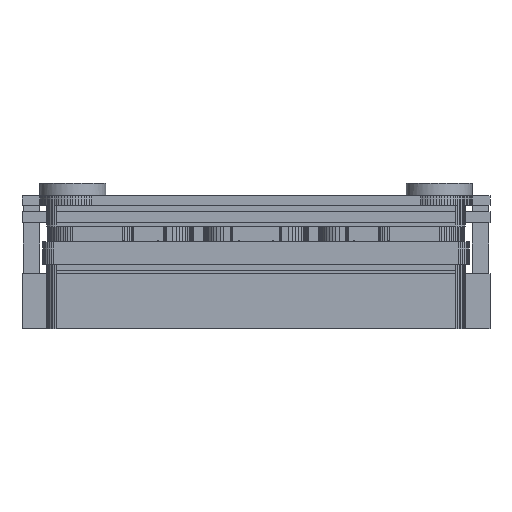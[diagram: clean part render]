
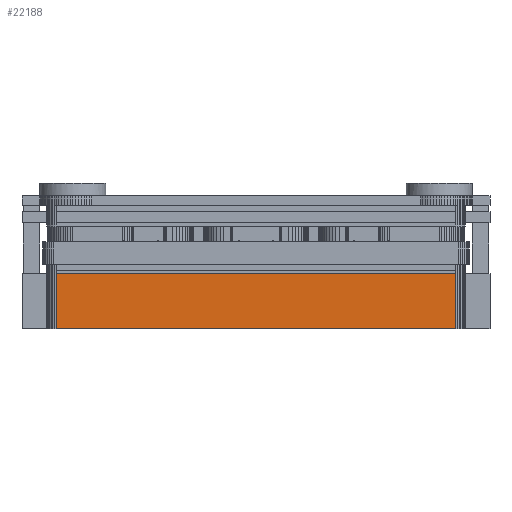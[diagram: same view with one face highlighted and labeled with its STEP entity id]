
A CAD part, left-side view. The second image highlights one B-rep face of the part: STEP entity #22188.
In plain terms, the highlighted planar face has unit normal (-1, 0, 0).
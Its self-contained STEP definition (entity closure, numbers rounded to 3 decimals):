
#254 = PLANE('',#255);
#255 = AXIS2_PLACEMENT_3D('',#256,#257,#258);
#256 = CARTESIAN_POINT('',(0.405,0.,-1.145));
#257 = DIRECTION('',(-0.,-0.,-1.));
#258 = DIRECTION('',(-1.,0.,0.));
#308 = PLANE('',#309);
#309 = AXIS2_PLACEMENT_3D('',#310,#311,#312);
#310 = CARTESIAN_POINT('',(0.405,0.,-3.145));
#311 = DIRECTION('',(-0.,-0.,-1.));
#312 = DIRECTION('',(-1.,0.,0.));
#641 = VERTEX_POINT('',#642);
#642 = CARTESIAN_POINT('',(-7.3,-7.25,-3.145));
#656 = PLANE('',#657);
#657 = AXIS2_PLACEMENT_3D('',#658,#659,#660);
#658 = CARTESIAN_POINT('',(-7.293,-7.318,-3.145));
#659 = DIRECTION('',(-0.995,-0.098,0.));
#660 = DIRECTION('',(-0.098,0.995,0.));
#668 = EDGE_CURVE('',#641,#669,#671,.T.);
#669 = VERTEX_POINT('',#670);
#670 = CARTESIAN_POINT('',(-7.3,7.25,-3.145));
#671 = SURFACE_CURVE('',#672,(#676,#683),.PCURVE_S1.);
#672 = LINE('',#673,#674);
#673 = CARTESIAN_POINT('',(-7.3,-7.25,-3.145));
#674 = VECTOR('',#675,1.);
#675 = DIRECTION('',(0.,1.,0.));
#676 = PCURVE('',#308,#677);
#677 = DEFINITIONAL_REPRESENTATION('',(#678),#682);
#678 = LINE('',#679,#680);
#679 = CARTESIAN_POINT('',(7.705,-7.25));
#680 = VECTOR('',#681,1.);
#681 = DIRECTION('',(0.,1.));
#682 = ( GEOMETRIC_REPRESENTATION_CONTEXT(2) 
PARAMETRIC_REPRESENTATION_CONTEXT() REPRESENTATION_CONTEXT('2D SPACE',''
  ) );
#683 = PCURVE('',#684,#689);
#684 = PLANE('',#685);
#685 = AXIS2_PLACEMENT_3D('',#686,#687,#688);
#686 = CARTESIAN_POINT('',(-7.3,-7.25,-3.145));
#687 = DIRECTION('',(-1.,0.,0.));
#688 = DIRECTION('',(0.,1.,0.));
#689 = DEFINITIONAL_REPRESENTATION('',(#690),#694);
#690 = LINE('',#691,#692);
#691 = CARTESIAN_POINT('',(0.,0.));
#692 = VECTOR('',#693,1.);
#693 = DIRECTION('',(1.,0.));
#694 = ( GEOMETRIC_REPRESENTATION_CONTEXT(2) 
PARAMETRIC_REPRESENTATION_CONTEXT() REPRESENTATION_CONTEXT('2D SPACE',''
  ) );
#712 = PLANE('',#713);
#713 = AXIS2_PLACEMENT_3D('',#714,#715,#716);
#714 = CARTESIAN_POINT('',(-7.3,7.25,-3.145));
#715 = DIRECTION('',(-0.995,0.098,0.));
#716 = DIRECTION('',(0.098,0.995,0.));
#11660 = VERTEX_POINT('',#11661);
#11661 = CARTESIAN_POINT('',(-7.3,-7.25,-1.145));
#11682 = EDGE_CURVE('',#11660,#11683,#11685,.T.);
#11683 = VERTEX_POINT('',#11684);
#11684 = CARTESIAN_POINT('',(-7.3,7.25,-1.145));
#11685 = SURFACE_CURVE('',#11686,(#11690,#11697),.PCURVE_S1.);
#11686 = LINE('',#11687,#11688);
#11687 = CARTESIAN_POINT('',(-7.3,-7.25,-1.145));
#11688 = VECTOR('',#11689,1.);
#11689 = DIRECTION('',(0.,1.,0.));
#11690 = PCURVE('',#254,#11691);
#11691 = DEFINITIONAL_REPRESENTATION('',(#11692),#11696);
#11692 = LINE('',#11693,#11694);
#11693 = CARTESIAN_POINT('',(7.705,-7.25));
#11694 = VECTOR('',#11695,1.);
#11695 = DIRECTION('',(0.,1.));
#11696 = ( GEOMETRIC_REPRESENTATION_CONTEXT(2) 
PARAMETRIC_REPRESENTATION_CONTEXT() REPRESENTATION_CONTEXT('2D SPACE',''
  ) );
#11697 = PCURVE('',#684,#11698);
#11698 = DEFINITIONAL_REPRESENTATION('',(#11699),#11703);
#11699 = LINE('',#11700,#11701);
#11700 = CARTESIAN_POINT('',(0.,-2.));
#11701 = VECTOR('',#11702,1.);
#11702 = DIRECTION('',(1.,0.));
#11703 = ( GEOMETRIC_REPRESENTATION_CONTEXT(2) 
PARAMETRIC_REPRESENTATION_CONTEXT() REPRESENTATION_CONTEXT('2D SPACE',''
  ) );
#22167 = EDGE_CURVE('',#641,#11660,#22168,.T.);
#22168 = SURFACE_CURVE('',#22169,(#22173,#22180),.PCURVE_S1.);
#22169 = LINE('',#22170,#22171);
#22170 = CARTESIAN_POINT('',(-7.3,-7.25,-3.145));
#22171 = VECTOR('',#22172,1.);
#22172 = DIRECTION('',(0.,0.,1.));
#22173 = PCURVE('',#656,#22174);
#22174 = DEFINITIONAL_REPRESENTATION('',(#22175),#22179);
#22175 = LINE('',#22176,#22177);
#22176 = CARTESIAN_POINT('',(0.069,0.));
#22177 = VECTOR('',#22178,1.);
#22178 = DIRECTION('',(0.,-1.));
#22179 = ( GEOMETRIC_REPRESENTATION_CONTEXT(2) 
PARAMETRIC_REPRESENTATION_CONTEXT() REPRESENTATION_CONTEXT('2D SPACE',''
  ) );
#22180 = PCURVE('',#684,#22181);
#22181 = DEFINITIONAL_REPRESENTATION('',(#22182),#22186);
#22182 = LINE('',#22183,#22184);
#22183 = CARTESIAN_POINT('',(0.,0.));
#22184 = VECTOR('',#22185,1.);
#22185 = DIRECTION('',(0.,-1.));
#22186 = ( GEOMETRIC_REPRESENTATION_CONTEXT(2) 
PARAMETRIC_REPRESENTATION_CONTEXT() REPRESENTATION_CONTEXT('2D SPACE',''
  ) );
#22188 = ADVANCED_FACE('',(#22189),#684,.T.);
#22189 = FACE_BOUND('',#22190,.T.);
#22190 = EDGE_LOOP('',(#22191,#22192,#22193,#22214));
#22191 = ORIENTED_EDGE('',*,*,#22167,.T.);
#22192 = ORIENTED_EDGE('',*,*,#11682,.T.);
#22193 = ORIENTED_EDGE('',*,*,#22194,.F.);
#22194 = EDGE_CURVE('',#669,#11683,#22195,.T.);
#22195 = SURFACE_CURVE('',#22196,(#22200,#22207),.PCURVE_S1.);
#22196 = LINE('',#22197,#22198);
#22197 = CARTESIAN_POINT('',(-7.3,7.25,-3.145));
#22198 = VECTOR('',#22199,1.);
#22199 = DIRECTION('',(0.,0.,1.));
#22200 = PCURVE('',#684,#22201);
#22201 = DEFINITIONAL_REPRESENTATION('',(#22202),#22206);
#22202 = LINE('',#22203,#22204);
#22203 = CARTESIAN_POINT('',(14.5,0.));
#22204 = VECTOR('',#22205,1.);
#22205 = DIRECTION('',(0.,-1.));
#22206 = ( GEOMETRIC_REPRESENTATION_CONTEXT(2) 
PARAMETRIC_REPRESENTATION_CONTEXT() REPRESENTATION_CONTEXT('2D SPACE',''
  ) );
#22207 = PCURVE('',#712,#22208);
#22208 = DEFINITIONAL_REPRESENTATION('',(#22209),#22213);
#22209 = LINE('',#22210,#22211);
#22210 = CARTESIAN_POINT('',(0.,0.));
#22211 = VECTOR('',#22212,1.);
#22212 = DIRECTION('',(0.,-1.));
#22213 = ( GEOMETRIC_REPRESENTATION_CONTEXT(2) 
PARAMETRIC_REPRESENTATION_CONTEXT() REPRESENTATION_CONTEXT('2D SPACE',''
  ) );
#22214 = ORIENTED_EDGE('',*,*,#668,.F.);
